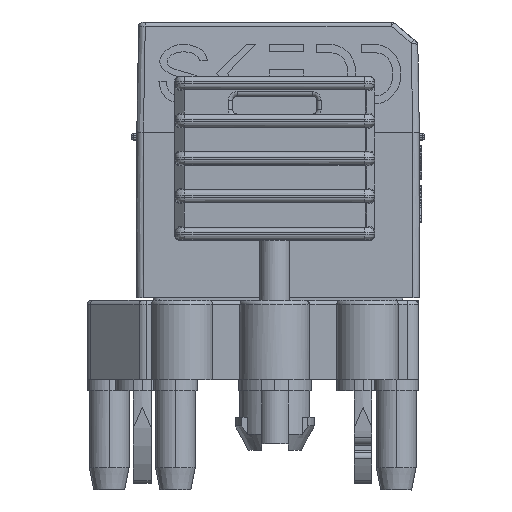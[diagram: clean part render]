
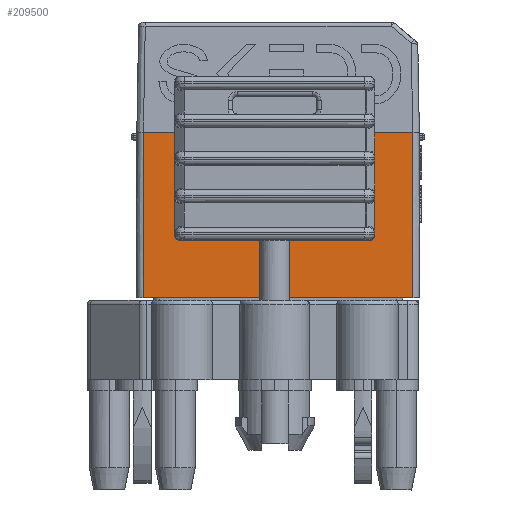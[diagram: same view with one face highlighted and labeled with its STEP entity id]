
A CAD part, left-side view. The second image highlights one B-rep face of the part: STEP entity #209500.
In plain terms, the highlighted planar face has unit normal (-1, 0, 0) as drawn and (0, 0, -1) by its records, which use the part's own axes.
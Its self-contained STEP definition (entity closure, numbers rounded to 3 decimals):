
#66220=CARTESIAN_POINT('',(25.09,12.236,
-65.42));
#66230=VERTEX_POINT('',#66220);
#66260=CARTESIAN_POINT('',(25.09,0.,-65.42));
#66270=DIRECTION('',(0.,-1.,0.));
#66280=VECTOR('',#66270,1.);
#66290=LINE('',#66260,#66280);
#66300=CARTESIAN_POINT('',(25.09,13.236,
-65.42));
#66310=VERTEX_POINT('',#66300);
#66320=EDGE_CURVE('',#66310,#66230,#66290,.T.);
#83780=CARTESIAN_POINT('',(25.09,18.336,
-65.42));
#83790=VERTEX_POINT('',#83780);
#83820=CARTESIAN_POINT('',(25.09,0.,-65.42));
#83830=DIRECTION('',(0.,-1.,0.));
#83840=VECTOR('',#83830,1.);
#83850=LINE('',#83820,#83840);
#83860=CARTESIAN_POINT('',(25.09,19.336,
-65.42));
#83870=VERTEX_POINT('',#83860);
#83880=EDGE_CURVE('',#83870,#83790,#83850,.T.);
#86430=CARTESIAN_POINT('',(21.89,13.236,
-65.42));
#86440=VERTEX_POINT('',#86430);
#86560=CARTESIAN_POINT('',(0.,13.236,-65.42));
#86570=DIRECTION('',(1.,0.,0.));
#86580=VECTOR('',#86570,1.);
#86590=LINE('',#86560,#86580);
#86600=EDGE_CURVE('',#86440,#66310,#86590,.T.);
#99770=CARTESIAN_POINT('',(21.89,19.336,
-65.42));
#99780=VERTEX_POINT('',#99770);
#99830=CARTESIAN_POINT('',(21.89,0.,-65.42));
#99840=DIRECTION('',(0.,-1.,0.));
#99850=VECTOR('',#99840,1.);
#99860=LINE('',#99830,#99850);
#99870=CARTESIAN_POINT('',(21.89,18.336,
-65.42));
#99880=VERTEX_POINT('',#99870);
#99890=EDGE_CURVE('',#99780,#99880,#99860,.T.);
#139870=CARTESIAN_POINT('',(0.,18.336,-65.42));
#139880=DIRECTION('',(1.,0.,0.));
#139890=VECTOR('',#139880,1.);
#139900=LINE('',#139870,#139890);
#139910=EDGE_CURVE('',#99880,#83790,#139900,.T.);
#154780=CARTESIAN_POINT('',(28.29,21.736,
-65.42));
#154790=VERTEX_POINT('',#154780);
#154820=CARTESIAN_POINT('',(28.29,0.,
-65.42));
#154830=DIRECTION('',(0.,-1.,0.));
#154840=VECTOR('',#154830,1.);
#154850=LINE('',#154820,#154840);
#154860=CARTESIAN_POINT('',(28.29,9.536,
-65.42));
#154870=VERTEX_POINT('',#154860);
#154880=EDGE_CURVE('',#154790,#154870,#154850,.T.);
#159010=CARTESIAN_POINT('',(21.89,0.,-65.42));
#159020=DIRECTION('',(0.,-1.,0.));
#159030=VECTOR('',#159020,1.);
#159040=LINE('',#159010,#159030);
#159050=CARTESIAN_POINT('',(21.89,12.236,
-65.42));
#159060=VERTEX_POINT('',#159050);
#159070=EDGE_CURVE('',#86440,#159060,#159040,.T.);
#181700=CARTESIAN_POINT('',(20.803,21.736,
-65.42));
#181710=VERTEX_POINT('',#181700);
#188930=CARTESIAN_POINT('',(20.803,9.536,
-65.42));
#188940=VERTEX_POINT('',#188930);
#197630=CARTESIAN_POINT('',(0.,19.336,-65.42));
#197640=DIRECTION('',(-1.,0.,0.));
#197650=VECTOR('',#197640,1.);
#197660=LINE('',#197630,#197650);
#197670=EDGE_CURVE('',#83870,#99780,#197660,.T.);
#208970=CARTESIAN_POINT('',(20.79,22.036,
-65.42));
#208980=DIRECTION('',(0.,0.,-1.));
#208990=DIRECTION('',(1.,0.,0.));
#209000=AXIS2_PLACEMENT_3D('',#208970,#208980,#208990);
#209010=PLANE('',#209000);
#209020=ORIENTED_EDGE('',*,*,#99890,.T.);
#209030=ORIENTED_EDGE('',*,*,#197670,.T.);
#209040=ORIENTED_EDGE('',*,*,#83880,.F.);
#209050=ORIENTED_EDGE('',*,*,#139910,.T.);
#209060=EDGE_LOOP('',(#209050,#209040,#209030,#209020));
#209070=FACE_BOUND('',#209060,.T.);
#209080=ORIENTED_EDGE('',*,*,#159070,.T.);
#209090=ORIENTED_EDGE('',*,*,#86600,.F.);
#209100=ORIENTED_EDGE('',*,*,#66320,.F.);
#209110=CARTESIAN_POINT('',(0.,12.236,-65.42));
#209120=DIRECTION('',(1.,0.,0.));
#209130=VECTOR('',#209120,1.);
#209140=LINE('',#209110,#209130);
#209150=EDGE_CURVE('',#159060,#66230,#209140,.T.);
#209160=ORIENTED_EDGE('',*,*,#209150,.T.);
#209170=EDGE_LOOP('',(#209160,#209100,#209090,#209080));
#209180=FACE_BOUND('',#209170,.T.);
#209190=CARTESIAN_POINT('',(20.803,0.,
-65.42));
#209200=DIRECTION('',(0.,-1.,0.));
#209210=VECTOR('',#209200,1.);
#209220=LINE('',#209190,#209210);
#209230=EDGE_CURVE('',#181710,#188940,#209220,.T.);
#209240=ORIENTED_EDGE('',*,*,#209230,.F.);
#209250=CARTESIAN_POINT('',(20.803,9.536,
-65.42));
#209260=CARTESIAN_POINT('',(20.842,9.536,
-65.42));
#209270=CARTESIAN_POINT('',(20.88,9.536,
-65.42));
#209280=CARTESIAN_POINT('',(22.14,9.536,
-65.42));
#209290=CARTESIAN_POINT('',(23.36,9.536,
-65.42));
#209300=CARTESIAN_POINT('',(49.553,9.536,
-65.42));
#209310=CARTESIAN_POINT('',(74.526,9.536,
-65.42));
#209320=CARTESIAN_POINT('',(99.499,9.536,
-65.42));
#209330=B_SPLINE_CURVE_WITH_KNOTS('',3,(#209250,#209260,#209270,#209280,
#209290,#209300,#209310,#209320),.UNSPECIFIED.,.F.,.F.,(4,2,2,4),(
-78.7,-78.578,-74.919,
0.),.UNSPECIFIED.);
#209340=EDGE_CURVE('',#188940,#154870,#209330,.T.);
#209350=ORIENTED_EDGE('',*,*,#209340,.F.);
#209360=ORIENTED_EDGE('',*,*,#154880,.T.);
#209370=CARTESIAN_POINT('',(20.803,21.736,
-65.42));
#209380=CARTESIAN_POINT('',(20.842,21.736,
-65.42));
#209390=CARTESIAN_POINT('',(20.88,21.736,
-65.42));
#209400=CARTESIAN_POINT('',(22.14,21.736,
-65.42));
#209410=CARTESIAN_POINT('',(23.36,21.736,
-65.42));
#209420=CARTESIAN_POINT('',(25.917,21.736,
-65.42));
#209430=CARTESIAN_POINT('',(27.253,21.736,
-65.42));
#209440=CARTESIAN_POINT('',(28.59,21.736,
-65.42));
#209450=B_SPLINE_CURVE_WITH_KNOTS('',3,(#209370,#209380,#209390,#209400,
#209410,#209420,#209430,#209440),.UNSPECIFIED.,.F.,.F.,(4,2,2,4),(0.,
0.121,3.781,7.791),.UNSPECIFIED.);
#209460=EDGE_CURVE('',#181710,#154790,#209450,.T.);
#209470=ORIENTED_EDGE('',*,*,#209460,.T.);
#209480=EDGE_LOOP('',(#209470,#209360,#209350,#209240));
#209490=FACE_OUTER_BOUND('',#209480,.T.);
#209500=ADVANCED_FACE('',(#209070,#209180,#209490),#209010,.T.);
